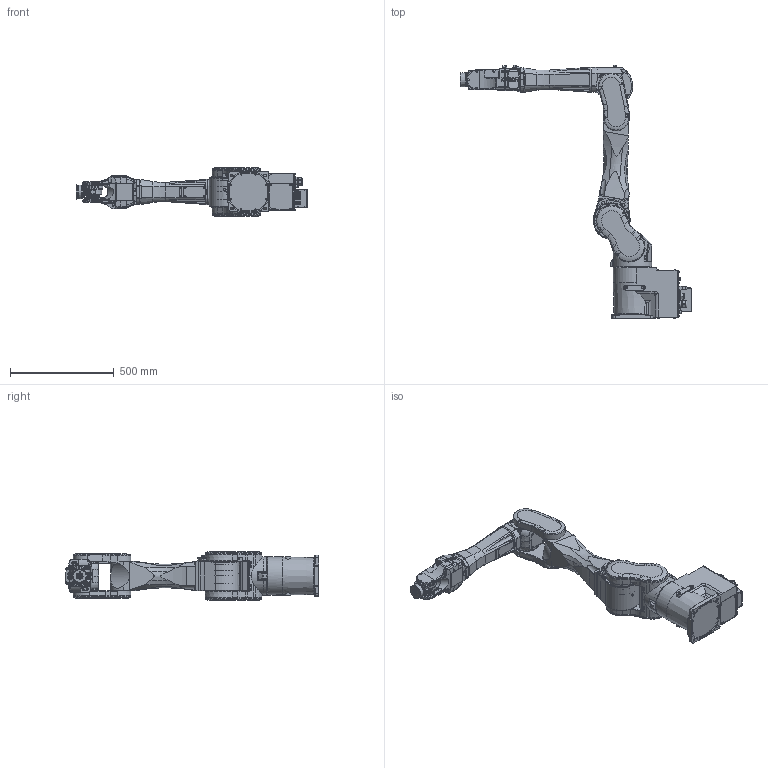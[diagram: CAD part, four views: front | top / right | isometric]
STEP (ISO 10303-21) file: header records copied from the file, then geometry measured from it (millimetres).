
FILE_DESCRIPTION(/* description */ ('STEP AP203'),/* implementation_level */ '2;1');
FILE_NAME(/* name */ 'C12-B1401S',/* time_stamp */ '2025-09-25T09:50:14+02:00',/* author */ ('License CC BY-ND 4.0'),/* organization */ ('CADENAS'),/* preprocessor_version */ 'ST-DEVELOPER v19.3',/* originating_system */ 'PARTsolutions',/* authorisation */ ' ');
FILE_SCHEMA (('CONFIG_CONTROL_DESIGN'));
Products named in the file (8): C12-B1401S; Base C8XLSR; J1 C8S; J2 C8XLS; J3 C12XLS (7); J4 C12XLS; J5 C8S; J6 C8S
Assembly tree (7 placements, depth 2):
  C12-B1401S
    Base C8XLSR
    J1 C8S
    J2 C8XLS
    J3 C12XLS (7)
    J4 C12XLS
    J5 C8S
    J6 C8S
Bounding box: 1116.5 x 1222.49 x 236 mm (x, y, z)
Volume: 39692951 mm3; surface area: 2046709.9 mm2
Topology: 7 solids, 10 shells, 4092 faces, 10326 edges, 6698 vertices
Faces by surface type: plane 2227, cylinder 1170, cone 422, torus 228, sphere 45
Full cylindrical faces by diameter (mm): 1 x30, 2.459 x4, 3 x2, 3.242 x27, 3.3 x4, 4 x2, 4.134 x5, 4.5 x8, 5 x3, 5.4 x4, 5.5 x4, 6 x8, 7 x49, 7.554 x2, 7.9 x4, 8 x16, 8.5 x4, 9 x6, 9.5 x6, 10 x19, 10.106 x9, 10.2 x1, 10.4 x2, 11 x3, 12 x2, 13 x11, 14 x3, 16 x3, 17 x2, 17.8 x1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
Entity records: 147943 total; most frequent: CARTESIAN_POINT 23871, DIRECTION 20082, ORIENTED_EDGE 18852, EDGE_CURVE 9426, AXIS2_PLACEMENT_3D 7340, VERTEX_POINT 6544, LINE 5402, VECTOR 5402
